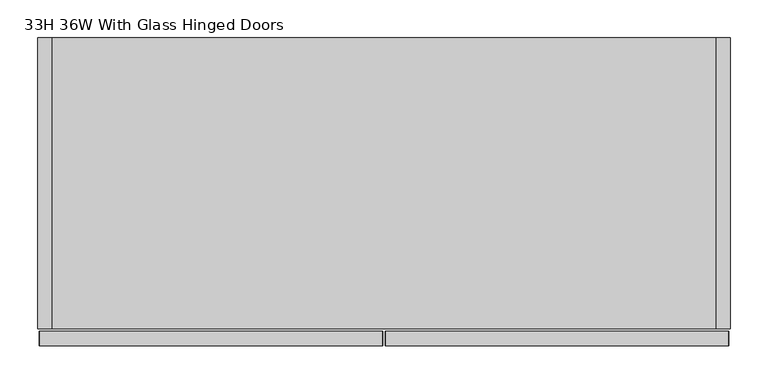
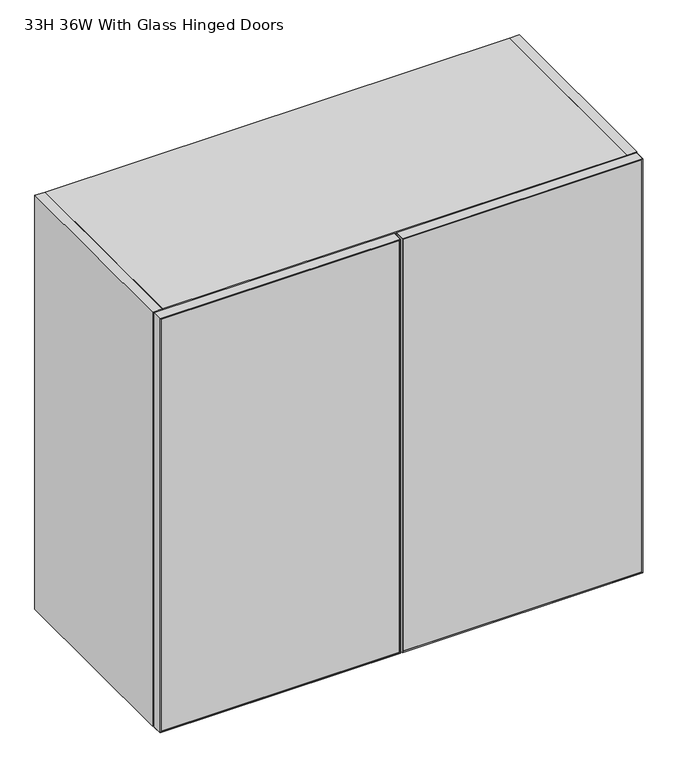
"""IFC4 building model written with IfcOpenShell, lengths in millimetres: furniture geometry, Haworth_Masters_OverheadStorageUnit : 33H 36W With Glass Hinged Doors."""

from ifc_helpers import new_model, si_unit, frame, origin, place, context, project, spatial, polyline, outline, extrude, source, transform, mapped, element, save


def furniture_33h_36w_with_glass_hinged_doors_f9430c21(model_context):
    return source(origin(), model_context, "Body", "SweptSolid", [
        extrude(outline(polyline([(2057.4, -11.1125), (1231.9, -11.1125), (1233.4875, -9.525), (2055.8125, -9.525), (2057.4, -11.1125)])), frame((0.0, -419.1, 0.0), z_axis=(0.0, 1.0, 0.0), x_axis=(0.0, 0.0, 1.0)), (0.0, 0.0, 1.0), 19.05),
        extrude(outline(polyline([(2057.4, 442.9125), (2055.8125, 441.325), (1233.4875, 441.325), (1231.9, 442.9125), (2057.4, 442.9125)])), frame((0.0, -419.1, 0.0), z_axis=(0.0, 1.0, 0.0), x_axis=(0.0, 0.0, 1.0)), (0.0, 0.0, 1.0), 19.05),
        extrude(outline(polyline([(2055.8125, -9.525), (2055.8125, 441.325), (2057.4, 442.9125), (2057.4, -11.1125), (2055.8125, -9.525)])), frame((0.0, -419.1, 0.0), z_axis=(0.0, 1.0, 0.0), x_axis=(0.0, 0.0, 1.0)), (0.0, 0.0, 1.0), 19.05),
        extrude(outline(polyline([(1233.4875, -9.525), (1231.9, -11.1125), (1231.9, 442.9125), (1233.4875, 441.325), (1233.4875, -9.525)])), frame((0.0, -419.1, 0.0), z_axis=(0.0, 1.0, 0.0), x_axis=(0.0, 0.0, 1.0)), (0.0, 0.0, 1.0), 19.05),
        extrude(outline(polyline([(441.325, -400.84375), (441.325, -418.30625), (-9.525, -418.30625), (-9.525, -400.84375), (441.325, -400.84375)])), frame((0.0, 0.0, 1233.4875), z_axis=(0.0, 0.0, 1.0), x_axis=(1.0, 0.0, 0.0)), (0.0, 0.0, 1.0), 822.325),
        extrude(outline(polyline([(2057.4, -14.2875), (2055.8125, -15.875), (1233.4875, -15.875), (1231.9, -14.2875), (2057.4, -14.2875)])), frame((0.0, -419.1, 0.0), z_axis=(0.0, 1.0, 0.0), x_axis=(0.0, 0.0, 1.0)), (0.0, 0.0, 1.0), 19.05),
        extrude(outline(polyline([(2057.4, -468.3125), (1231.9, -468.3125), (1233.4875, -466.725), (2055.8125, -466.725), (2057.4, -468.3125)])), frame((0.0, -419.1, 0.0), z_axis=(0.0, 1.0, 0.0), x_axis=(0.0, 0.0, 1.0)), (0.0, 0.0, 1.0), 19.05),
        extrude(outline(polyline([(2055.8125, -15.875), (2057.4, -14.2875), (2057.4, -468.3125), (2055.8125, -466.725), (2055.8125, -15.875)])), frame((0.0, -419.1, 0.0), z_axis=(0.0, 1.0, 0.0), x_axis=(0.0, 0.0, 1.0)), (0.0, 0.0, 1.0), 19.05),
        extrude(outline(polyline([(1233.4875, -15.875), (1233.4875, -466.725), (1231.9, -468.3125), (1231.9, -14.2875), (1233.4875, -15.875)])), frame((0.0, -419.1, 0.0), z_axis=(0.0, 1.0, 0.0), x_axis=(0.0, 0.0, 1.0)), (0.0, 0.0, 1.0), 19.05),
        extrude(outline(polyline([(-466.725, -400.84375), (-15.875, -400.84375), (-15.875, -418.30625), (-466.725, -418.30625), (-466.725, -400.84375)])), frame((0.0, 0.0, 1233.4875), z_axis=(0.0, 0.0, 1.0), x_axis=(1.0, 0.0, 0.0)), (0.0, 0.0, 1.0), 822.325),
        extrude(outline(polyline([(2057.4, -11.1125), (1231.9, -11.1125), (1233.4875, -9.525), (2055.8125, -9.525), (2057.4, -11.1125)])), frame((0.0, -419.1, 0.0), z_axis=(0.0, 1.0, 0.0), x_axis=(0.0, 0.0, 1.0)), (0.0, 0.0, 1.0), 19.05),
        extrude(outline(polyline([(2057.4, 442.9125), (2055.8125, 441.325), (1233.4875, 441.325), (1231.9, 442.9125), (2057.4, 442.9125)])), frame((0.0, -419.1, 0.0), z_axis=(0.0, 1.0, 0.0), x_axis=(0.0, 0.0, 1.0)), (0.0, 0.0, 1.0), 19.05),
        extrude(outline(polyline([(2055.8125, -9.525), (2055.8125, 441.325), (2057.4, 442.9125), (2057.4, -11.1125), (2055.8125, -9.525)])), frame((0.0, -419.1, 0.0), z_axis=(0.0, 1.0, 0.0), x_axis=(0.0, 0.0, 1.0)), (0.0, 0.0, 1.0), 19.05),
        extrude(outline(polyline([(1233.4875, -9.525), (1231.9, -11.1125), (1231.9, 442.9125), (1233.4875, 441.325), (1233.4875, -9.525)])), frame((0.0, -419.1, 0.0), z_axis=(0.0, 1.0, 0.0), x_axis=(0.0, 0.0, 1.0)), (0.0, 0.0, 1.0), 19.05),
        extrude(outline(polyline([(441.325, -400.84375), (441.325, -418.30625), (-9.525, -418.30625), (-9.525, -400.84375), (441.325, -400.84375)])), frame((0.0, 0.0, 1233.4875), z_axis=(0.0, 0.0, 1.0), x_axis=(1.0, 0.0, 0.0)), (0.0, 0.0, 1.0), 822.325),
        extrude(outline(polyline([(2057.4, -14.2875), (2055.8125, -15.875), (1233.4875, -15.875), (1231.9, -14.2875), (2057.4, -14.2875)])), frame((0.0, -419.1, 0.0), z_axis=(0.0, 1.0, 0.0), x_axis=(0.0, 0.0, 1.0)), (0.0, 0.0, 1.0), 19.05),
        extrude(outline(polyline([(2057.4, -468.3125), (1231.9, -468.3125), (1233.4875, -466.725), (2055.8125, -466.725), (2057.4, -468.3125)])), frame((0.0, -419.1, 0.0), z_axis=(0.0, 1.0, 0.0), x_axis=(0.0, 0.0, 1.0)), (0.0, 0.0, 1.0), 19.05),
        extrude(outline(polyline([(2055.8125, -15.875), (2057.4, -14.2875), (2057.4, -468.3125), (2055.8125, -466.725), (2055.8125, -15.875)])), frame((0.0, -419.1, 0.0), z_axis=(0.0, 1.0, 0.0), x_axis=(0.0, 0.0, 1.0)), (0.0, 0.0, 1.0), 19.05),
        extrude(outline(polyline([(1233.4875, -15.875), (1233.4875, -466.725), (1231.9, -468.3125), (1231.9, -14.2875), (1233.4875, -15.875)])), frame((0.0, -419.1, 0.0), z_axis=(0.0, 1.0, 0.0), x_axis=(0.0, 0.0, 1.0)), (0.0, 0.0, 1.0), 19.05),
        extrude(outline(polyline([(-466.725, -400.84375), (-15.875, -400.84375), (-15.875, -418.30625), (-466.725, -418.30625), (-466.725, -400.84375)])), frame((0.0, 0.0, 1233.4875), z_axis=(0.0, 0.0, 1.0), x_axis=(1.0, 0.0, 0.0)), (0.0, 0.0, 1.0), 822.325),
        extrude(outline(polyline([(-31.75, -31.75), (-31.75, -393.7), (-450.85, -393.7), (-450.85, -31.75), (-31.75, -31.75)])), frame((0.0, 0.0, 1631.95), z_axis=(0.0, 0.0, 1.0), x_axis=(1.0, 0.0, 0.0)), (0.0, 0.0, 1.0), 19.05),
        extrude(outline(polyline([(425.45, -31.75), (425.45, -393.7), (6.35, -393.7), (6.35, -31.75), (425.45, -31.75)])), frame((0.0, 0.0, 1631.95), z_axis=(0.0, 0.0, 1.0), x_axis=(1.0, 0.0, 0.0)), (0.0, 0.0, 1.0), 19.05),
        extrude(outline(polyline([(6.35, -31.75), (6.35, -393.7), (-12.7, -393.7), (-12.7, -31.75), (6.35, -31.75)])), frame((0.0, 0.0, 1270.0), z_axis=(0.0, 0.0, 1.0), x_axis=(1.0, 0.0, 0.0)), (0.0, 0.0, 1.0), 768.35),
        extrude(outline(polyline([(-12.7, -31.75), (-12.7, -393.7), (-31.75, -393.7), (-31.75, -31.75), (-12.7, -31.75)])), frame((0.0, 0.0, 1270.0), z_axis=(0.0, 0.0, 1.0), x_axis=(1.0, 0.0, 0.0)), (0.0, 0.0, 1.0), 768.35),
        extrude(outline(polyline([(425.45, -12.7), (425.45, -396.875), (-450.85, -396.875), (-450.85, -12.7), (425.45, -12.7)])), frame((0.0, 0.0, 2038.35), z_axis=(0.0, 0.0, 1.0), x_axis=(1.0, 0.0, 0.0)), (0.0, 0.0, 1.0), 19.05),
        extrude(outline(polyline([(425.45, -12.7), (425.45, -31.75), (-450.85, -31.75), (-450.85, -12.7), (425.45, -12.7)])), frame((0.0, 0.0, 1231.9), z_axis=(0.0, 0.0, 1.0), x_axis=(1.0, 0.0, 0.0)), (0.0, 0.0, 1.0), 806.45),
        extrude(outline(polyline([(425.45, -31.75), (425.45, -396.875), (-450.85, -396.875), (-450.85, -31.75), (425.45, -31.75)])), frame((0.0, 0.0, 1231.9), z_axis=(0.0, 0.0, 1.0), x_axis=(1.0, 0.0, 0.0)), (0.0, 0.0, 1.0), 38.1),
        extrude(outline(polyline([(-450.85, -12.7), (-450.85, -396.875), (-469.9, -396.875), (-469.9, -12.7), (-450.85, -12.7)])), frame((0.0, 0.0, 1231.9), z_axis=(0.0, 0.0, 1.0), x_axis=(1.0, 0.0, 0.0)), (0.0, 0.0, 1.0), 825.5),
        extrude(outline(polyline([(444.5, -396.875), (425.45, -396.875), (425.45, -12.7), (444.5, -12.7), (444.5, -396.875)])), frame((0.0, 0.0, 1231.9), z_axis=(0.0, 0.0, 1.0), x_axis=(1.0, 0.0, 0.0)), (0.0, 0.0, 1.0), 825.5),
    ])


if __name__ == "__main__":
    model = new_model("IFC4")
    model_context = context("Model", 3, world=origin())
    ifc_project = project(units=[si_unit("LENGTHUNIT", "METRE", prefix="MILLI")], contexts=[model_context])
    site = spatial("IfcSite", under=ifc_project)
    building = spatial("IfcBuilding", under=site)
    placement = place(None, origin())
    furniture_33h_36w_with_glass_hinged_doors_shape = furniture_33h_36w_with_glass_hinged_doors_f9430c21(model_context)
    element("IfcFurniture", 1, ObjectType="Haworth_Masters_OverheadStorageUnit : 33H 36W With Glass Hinged Doors", at=placement, inside=building, context=model_context, shape_type="MappedRepresentation", body=[
        mapped(furniture_33h_36w_with_glass_hinged_doors_shape, transform((0.0, 0.0, 0.0), x_axis=(1.0, 0.0, 0.0), y_axis=(0.0, 1.0, 0.0), z_axis=(0.0, 0.0, 1.0))),
    ])
    save(model, "model.ifc")
